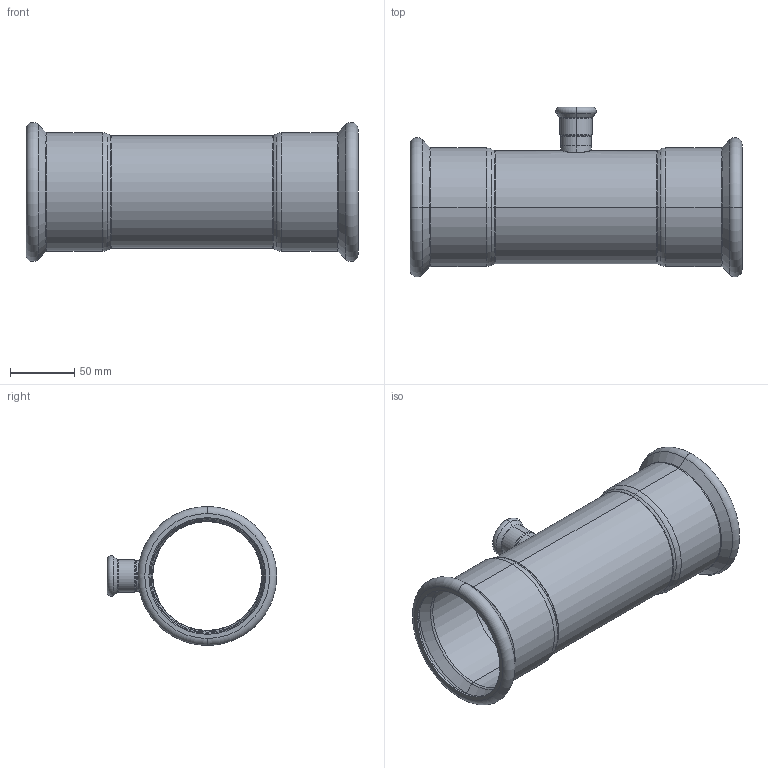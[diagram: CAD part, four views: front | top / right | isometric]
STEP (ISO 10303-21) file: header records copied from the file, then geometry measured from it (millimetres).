
FILE_DESCRIPTION (( 'STEP AP203' ), '1' );
FILE_NAME ('GDA5217.STEP', '2019-01-12T05:58:05', ( '' ), ( '' ), 'SwSTEP 2.0', 'SolidWorks 2015', '' );
FILE_SCHEMA (( 'CONFIG_CONTROL_DESIGN' ));
Length unit declared in the file: millimetre
Products named in the file (3): T(R)-¢ñ-88.9¡Á22''; T-ｉ-01-22; GDA5217
Assembly tree (2 placements, depth 2):
  GDA5217
    T(R)-¢ñ-88.9¡Á22''
    T-ｉ-01-22
Bounding box: 259 x 132.24 x 108.48 mm (x, y, z)
Volume: 121734.8 mm3; surface area: 163276.4 mm2
Topology: 2 solids, 2 shells, 114 faces, 234 edges, 128 vertices
Faces by surface type: torus 48, cylinder 30, cone 24, plane 8, bspline 4
Entity records: 4252 total; most frequent: CARTESIAN_POINT 1462, DIRECTION 620, ORIENTED_EDGE 468, AXIS2_PLACEMENT_3D 283, EDGE_CURVE 234, CIRCLE 168, VERTEX_POINT 128, EDGE_LOOP 124
